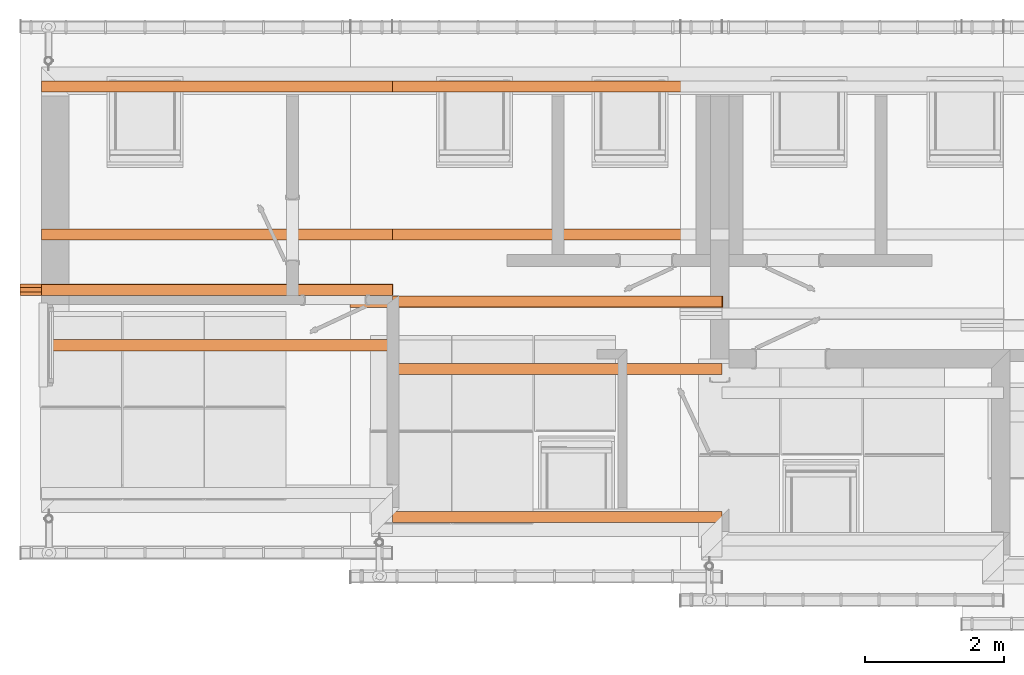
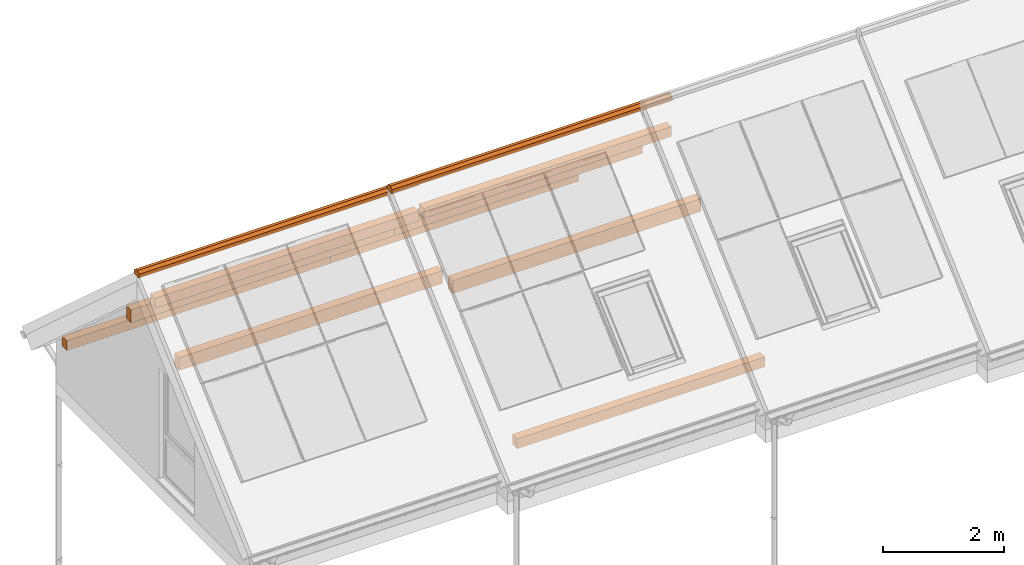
# One storey, part 18 of 43: 11 proxies.
"""IFC2X3 building model written with IfcOpenShell, lengths in millimetres."""

from ifc_helpers import new_model, si_unit, frame, origin_with_axes, place, context, project, spatial, faceted_brep, element, save


model = new_model("IFC2X3")

# Units and contexts
model_context = context("Model", 3, world=origin_with_axes())
ifc_project = project(units=[si_unit("LENGTHUNIT", "METRE", prefix="MILLI")], contexts=[model_context])

# Site, building, storey
site_placement = place(None, origin_with_axes())
site = spatial("IfcSite", under=ifc_project, at=site_placement, Name="Site", CompositionType="ELEMENT")
building_placement = place(site_placement, origin_with_axes())
building = spatial("IfcBuilding", under=site, at=building_placement, Name="?", CompositionType="ELEMENT")
storey_placement = place(building_placement, frame((0.0, 0.0, 5938.0), z_axis=(0.0, 0.0, 1.0), x_axis=(1.0, 0.0, 0.0)))
storey = spatial("IfcBuildingStorey", under=building, at=storey_placement, Name="Dachgeschoß", CompositionType="ELEMENT", Elevation=5938.0)

# Proxies
proxy_1_placement = place(None, origin_with_axes())
element("IfcBuildingElementProxy", 1, at=proxy_1_placement, inside=storey, Name="Dach03_RidgeStones#001", ObjectType="ridgestone", CompositionType="ELEMENT", context=model_context, shape_type="Brep", body=[
    faceted_brep([(9810.0, -3295.0, 10372.7373046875), (9810.0, -3295.0, 10297.7373046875), (4440.0, -3295.0, 10297.7373046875), (4440.0, -3295.0, 10372.7373046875), (9810.0, -3348.0, 10417.7373046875), (9810.0, -3294.99999760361, 10372.7373017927), (4440.0, -3294.99999760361, 10372.7373017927), (4440.0, -3348.0, 10417.7373046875), (9810.0, -3408.0, 10417.7373046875), (9810.0, -3348.0, 10417.7373046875), (4440.0, -3348.0, 10417.7373046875), (4440.0, -3408.0, 10417.7373046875), (9810.0, -3461.0, 10372.7373046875), (9810.0, -3407.99999760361, 10417.7373075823), (4440.0, -3407.99999760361, 10417.7373075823), (4440.0, -3461.0, 10372.7373046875), (9810.0, -3461.0, 10297.7373046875), (9810.0, -3461.0, 10372.7373046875), (4440.0, -3461.0, 10372.7373046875), (4440.0, -3461.0, 10297.7373046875), (9810.0, -3295.0, 10297.7373046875), (9810.0, -3461.0, 10297.7373046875), (4440.0, -3461.0, 10297.7373046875), (4440.0, -3295.0, 10297.7373046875), (9810.0, -3461.0, 10297.7373046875), (9810.0, -3295.0, 10297.7373046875), (9810.0, -3295.0, 10372.7373046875), (9810.0, -3348.0, 10417.7373046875), (9810.0, -3408.0, 10417.7373046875), (9810.0, -3461.0, 10372.7373046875), (4440.0, -3295.0, 10297.7373046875), (4440.0, -3461.0, 10297.7373046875), (4440.0, -3461.0, 10372.7373046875), (4440.0, -3408.0, 10417.7373046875), (4440.0, -3348.0, 10417.7373046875), (4440.0, -3295.0, 10372.7373046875)], [[[0, 1, 2, 3]], [[4, 5, 6, 7]], [[8, 9, 10, 11]], [[12, 13, 14, 15]], [[16, 17, 18, 19]], [[20, 21, 22, 23]], [[24, 25, 26, 27, 28, 29]], [[30, 31, 32, 33, 34, 35]]]),
])
proxy_2_placement = place(None, origin_with_axes())
element("IfcBuildingElementProxy", 2, at=proxy_2_placement, inside=storey, Name="Dach03_RidgePurlin#001", ObjectType="purlin", CompositionType="ELEMENT", context=model_context, shape_type="Brep", body=[
    faceted_brep([(9800.0, -3298.0, 9577.4521484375), (5050.0, -3298.0, 9577.4521484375), (5050.0, -3298.0, 9777.4521484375), (9800.0, -3298.0, 9777.4521484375), (9800.0, -3298.0, 9577.4521484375), (9800.0, -3298.0, 9777.4521484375), (9800.0, -3458.0, 9777.4521484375), (9800.0, -3458.0, 9577.4521484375), (5050.0, -3298.0, 9577.4521484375), (9800.0, -3298.0, 9577.4521484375), (9800.0, -3458.0, 9577.4521484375), (5050.0, -3458.0, 9577.4521484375), (5050.0, -3298.0, 9777.4521484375), (5050.0, -3298.0, 9577.4521484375), (5050.0, -3458.0, 9577.4521484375), (5050.0, -3458.0, 9777.4521484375), (9800.0, -3298.0, 9777.4521484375), (5050.0, -3298.0, 9777.4521484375), (5050.0, -3458.0, 9777.4521484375), (9800.0, -3458.0, 9777.4521484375), (9800.0, -3458.0, 9577.4521484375), (9800.0, -3458.0, 9777.4521484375), (5050.0, -3458.0, 9777.4521484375), (5050.0, -3458.0, 9577.4521484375)], [[[0, 1, 2, 3]], [[4, 5, 6, 7]], [[8, 9, 10, 11]], [[12, 13, 14, 15]], [[16, 17, 18, 19]], [[20, 21, 22, 23]]]),
])
proxy_3_placement = place(None, origin_with_axes())
element("IfcBuildingElementProxy", 3, at=proxy_3_placement, inside=storey, Name="Dach03_MiddlePurlin#001", ObjectType="purlin", CompositionType="ELEMENT", context=model_context, shape_type="Brep", body=[
    faceted_brep([(4450.0, -2489.03588867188, 8644.9921875), (9800.0, -2489.03588867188, 8644.9921875), (9800.0, -2489.03588867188, 8904.9921875), (4450.0, -2489.03588867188, 8904.9921875), (4450.0, -2489.03588867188, 8644.9921875), (4450.0, -2489.03588867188, 8904.9921875), (4450.0, -2329.03588867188, 8904.9921875), (4450.0, -2329.03588867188, 8644.9921875), (9800.0, -2489.03588867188, 8644.9921875), (4450.0, -2489.03588867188, 8644.9921875), (4450.0, -2329.03588867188, 8644.9921875), (9800.0, -2329.03588867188, 8644.9921875), (9800.0, -2489.03588867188, 8904.9921875), (9800.0, -2489.03588867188, 8644.9921875), (9800.0, -2329.03588867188, 8644.9921875), (9800.0, -2329.03588867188, 8904.9921875), (4450.0, -2489.03588867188, 8904.9921875), (9800.0, -2489.03588867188, 8904.9921875), (9800.0, -2329.03588867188, 8904.9921875), (4450.0, -2329.03588867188, 8904.9921875), (4450.0, -2329.03588867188, 8644.9921875), (4450.0, -2329.03588867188, 8904.9921875), (9800.0, -2329.03588867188, 8904.9921875), (9800.0, -2329.03588867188, 8644.9921875)], [[[0, 1, 2, 3]], [[4, 5, 6, 7]], [[8, 9, 10, 11]], [[12, 13, 14, 15]], [[16, 17, 18, 19]], [[20, 21, 22, 23]]]),
])
proxy_4_placement = place(None, origin_with_axes())
element("IfcBuildingElementProxy", 4, at=proxy_4_placement, inside=storey, Name="Dach03_MiddlePurlin#002", ObjectType="purlin", CompositionType="ELEMENT", context=model_context, shape_type="Brep", body=[
    faceted_brep([(9800.0, -4266.9638671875, 8644.9931640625), (5050.0, -4266.9638671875, 8644.9931640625), (5050.0, -4266.9638671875, 8904.9931640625), (9800.0, -4266.9638671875, 8904.9931640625), (9800.0, -4266.9638671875, 8644.9931640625), (9800.0, -4266.9638671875, 8904.9931640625), (9800.0, -4426.9638671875, 8904.9931640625), (9800.0, -4426.9638671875, 8644.9931640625), (5050.0, -4266.9638671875, 8644.9931640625), (9800.0, -4266.9638671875, 8644.9931640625), (9800.0, -4426.9638671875, 8644.9931640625), (5050.0, -4426.9638671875, 8644.9931640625), (5050.0, -4266.9638671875, 8904.9931640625), (5050.0, -4266.9638671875, 8644.9931640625), (5050.0, -4426.9638671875, 8644.9931640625), (5050.0, -4426.9638671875, 8904.9931640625), (9800.0, -4266.9638671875, 8904.9931640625), (5050.0, -4266.9638671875, 8904.9931640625), (5050.0, -4426.9638671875, 8904.9931640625), (9800.0, -4426.9638671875, 8904.9931640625), (9800.0, -4426.9638671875, 8644.9931640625), (9800.0, -4426.9638671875, 8904.9931640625), (5050.0, -4426.9638671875, 8904.9931640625), (5050.0, -4426.9638671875, 8644.9931640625)], [[[0, 1, 2, 3]], [[4, 5, 6, 7]], [[8, 9, 10, 11]], [[12, 13, 14, 15]], [[16, 17, 18, 19]], [[20, 21, 22, 23]]]),
])
proxy_5_placement = place(None, origin_with_axes())
element("IfcBuildingElementProxy", 5, at=proxy_5_placement, inside=storey, Name="Dach03_KneePurlin#001", ObjectType="purlin", CompositionType="ELEMENT", context=model_context, shape_type="Brep", body=[
    faceted_brep([(4450.0, -360.0, 6788.0), (9800.0, -360.0, 6788.0), (9800.0, -360.0, 6988.0), (4450.0, -360.0, 6988.0), (4450.0, -360.0, 6788.0), (4450.0, -360.0, 6988.0), (4450.0, -200.0, 6988.0), (4450.0, -200.0, 6788.0), (9800.0, -360.0, 6788.0), (4450.0, -360.0, 6788.0), (4450.0, -200.0, 6788.0), (9800.0, -200.0, 6788.0), (9800.0, -360.0, 6988.0), (9800.0, -360.0, 6788.0), (9800.0, -200.0, 6788.0), (9800.0, -200.0, 6988.0), (4450.0, -360.0, 6988.0), (9800.0, -360.0, 6988.0), (9800.0, -200.0, 6988.0), (4450.0, -200.0, 6988.0), (4450.0, -200.0, 6788.0), (4450.0, -200.0, 6988.0), (9800.0, -200.0, 6988.0), (9800.0, -200.0, 6788.0)], [[[0, 1, 2, 3]], [[4, 5, 6, 7]], [[8, 9, 10, 11]], [[12, 13, 14, 15]], [[16, 17, 18, 19]], [[20, 21, 22, 23]]]),
])
proxy_6_placement = place(None, origin_with_axes())
element("IfcBuildingElementProxy", 6, at=proxy_6_placement, inside=storey, Name="Dach03_KneePurlin#002", ObjectType="purlin", CompositionType="ELEMENT", context=model_context, shape_type="Brep", body=[
    faceted_brep([(9800.0, -6396.0, 6788.0), (5050.0, -6396.0, 6788.0), (5050.0, -6396.0, 6988.0), (9800.0, -6396.0, 6988.0), (9800.0, -6396.0, 6788.0), (9800.0, -6396.0, 6988.0), (9800.0, -6556.0, 6988.0), (9800.0, -6556.0, 6788.0), (5050.0, -6396.0, 6788.0), (9800.0, -6396.0, 6788.0), (9800.0, -6556.0, 6788.0), (5050.0, -6556.0, 6788.0), (5050.0, -6396.0, 6988.0), (5050.0, -6396.0, 6788.0), (5050.0, -6556.0, 6788.0), (5050.0, -6556.0, 6988.0), (9800.0, -6396.0, 6988.0), (5050.0, -6396.0, 6988.0), (5050.0, -6556.0, 6988.0), (9800.0, -6556.0, 6988.0), (9800.0, -6556.0, 6788.0), (9800.0, -6556.0, 6988.0), (5050.0, -6556.0, 6988.0), (5050.0, -6556.0, 6788.0)], [[[0, 1, 2, 3]], [[4, 5, 6, 7]], [[8, 9, 10, 11]], [[12, 13, 14, 15]], [[16, 17, 18, 19]], [[20, 21, 22, 23]]]),
])
proxy_7_placement = place(None, origin_with_axes())
element("IfcBuildingElementProxy", 7, at=proxy_7_placement, inside=storey, Name="Dach04_RidgeStones#001", ObjectType="ridgestone", CompositionType="ELEMENT", context=model_context, shape_type="Brep", body=[
    faceted_brep([(-310.0, -3290.5, 10219.21875), (-310.0, -3290.5, 10144.21875), (5060.0, -3290.5, 10144.21875), (5060.0, -3290.5, 10219.21875), (-310.0, -3237.5, 10264.21875), (-310.0, -3290.50000239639, 10219.2187471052), (5060.0, -3290.50000239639, 10219.2187471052), (5060.0, -3237.5, 10264.21875), (-310.0, -3177.5, 10264.21875), (-310.0, -3237.5, 10264.21875), (5060.0, -3237.5, 10264.21875), (5060.0, -3177.5, 10264.21875), (-310.0, -3124.5, 10219.21875), (-310.0, -3177.50000239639, 10264.2187528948), (5060.0, -3177.50000239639, 10264.2187528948), (5060.0, -3124.5, 10219.21875), (-310.0, -3124.5, 10144.21875), (-310.0, -3124.5, 10219.21875), (5060.0, -3124.5, 10219.21875), (5060.0, -3124.5, 10144.21875), (-310.0, -3290.5, 10144.21875), (-310.0, -3124.5, 10144.21875), (5060.0, -3124.5, 10144.21875), (5060.0, -3290.5, 10144.21875), (-310.0, -3124.5, 10144.21875), (-310.0, -3290.5, 10144.21875), (-310.0, -3290.5, 10219.21875), (-310.0, -3237.5, 10264.21875), (-310.0, -3177.5, 10264.21875), (-310.0, -3124.5, 10219.21875), (5060.0, -3290.5, 10144.21875), (5060.0, -3124.5, 10144.21875), (5060.0, -3124.5, 10219.21875), (5060.0, -3177.5, 10264.21875), (5060.0, -3237.5, 10264.21875), (5060.0, -3290.5, 10219.21875)], [[[0, 1, 2, 3]], [[4, 5, 6, 7]], [[8, 9, 10, 11]], [[12, 13, 14, 15]], [[16, 17, 18, 19]], [[20, 21, 22, 23]], [[24, 25, 26, 27, 28, 29]], [[30, 31, 32, 33, 34, 35]]]),
])
proxy_8_placement = place(None, origin_with_axes())
element("IfcBuildingElementProxy", 8, at=proxy_8_placement, inside=storey, Name="Dach04_RidgePurlin#001", ObjectType="purlin", CompositionType="ELEMENT", context=model_context, shape_type="Brep", body=[
    faceted_brep([(0.0, -3287.5, 9423.9326171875), (5050.0, -3287.5, 9423.9326171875), (5050.0, -3287.5, 9623.9326171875), (0.0, -3287.5, 9623.9326171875), (0.0, -3287.5, 9423.9326171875), (0.0, -3287.5, 9623.9326171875), (0.0, -3127.5, 9623.9326171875), (0.0, -3127.5, 9423.9326171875), (5050.0, -3287.5, 9423.9326171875), (0.0, -3287.5, 9423.9326171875), (0.0, -3127.5, 9423.9326171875), (5050.0, -3127.5, 9423.9326171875), (5050.0, -3287.5, 9623.9326171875), (5050.0, -3287.5, 9423.9326171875), (5050.0, -3127.5, 9423.9326171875), (5050.0, -3127.5, 9623.9326171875), (0.0, -3287.5, 9623.9326171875), (5050.0, -3287.5, 9623.9326171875), (5050.0, -3127.5, 9623.9326171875), (0.0, -3127.5, 9623.9326171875), (0.0, -3127.5, 9423.9326171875), (0.0, -3127.5, 9623.9326171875), (5050.0, -3127.5, 9623.9326171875), (5050.0, -3127.5, 9423.9326171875)], [[[0, 1, 2, 3]], [[4, 5, 6, 7]], [[8, 9, 10, 11]], [[12, 13, 14, 15]], [[16, 17, 18, 19]], [[20, 21, 22, 23]]]),
])
proxy_9_placement = place(None, origin_with_axes())
element("IfcBuildingElementProxy", 9, at=proxy_9_placement, inside=storey, Name="Dach04_MiddlePurlin#001", ObjectType="purlin", CompositionType="ELEMENT", context=model_context, shape_type="Brep", body=[
    faceted_brep([(5050.0, -3925.96435546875, 8644.9921875), (0.0, -3925.96435546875, 8644.9921875), (0.0, -3925.96435546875, 8904.9921875), (5050.0, -3925.96435546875, 8904.9921875), (5050.0, -3925.96435546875, 8644.9921875), (5050.0, -3925.96435546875, 8904.9921875), (5050.0, -4085.96435546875, 8904.9921875), (5050.0, -4085.96435546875, 8644.9921875), (0.0, -3925.96435546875, 8644.9921875), (5050.0, -3925.96435546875, 8644.9921875), (5050.0, -4085.96435546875, 8644.9921875), (0.0, -4085.96435546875, 8644.9921875), (0.0, -3925.96435546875, 8904.9921875), (0.0, -3925.96435546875, 8644.9921875), (0.0, -4085.96435546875, 8644.9921875), (0.0, -4085.96435546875, 8904.9921875), (5050.0, -3925.96435546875, 8904.9921875), (0.0, -3925.96435546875, 8904.9921875), (0.0, -4085.96435546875, 8904.9921875), (5050.0, -4085.96435546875, 8904.9921875), (5050.0, -4085.96435546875, 8644.9921875), (5050.0, -4085.96435546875, 8904.9921875), (0.0, -4085.96435546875, 8904.9921875), (0.0, -4085.96435546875, 8644.9921875)], [[[0, 1, 2, 3]], [[4, 5, 6, 7]], [[8, 9, 10, 11]], [[12, 13, 14, 15]], [[16, 17, 18, 19]], [[20, 21, 22, 23]]]),
])
proxy_10_placement = place(None, origin_with_axes())
element("IfcBuildingElementProxy", 10, at=proxy_10_placement, inside=storey, Name="Dach04_MiddlePurlin#002", ObjectType="purlin", CompositionType="ELEMENT", context=model_context, shape_type="Brep", body=[
    faceted_brep([(0.0, -2489.03588867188, 8644.9921875), (5050.0, -2489.03588867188, 8644.9921875), (5050.0, -2489.03588867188, 8904.9921875), (0.0, -2489.03588867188, 8904.9921875), (0.0, -2489.03588867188, 8644.9921875), (0.0, -2489.03588867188, 8904.9921875), (0.0, -2329.03588867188, 8904.9921875), (0.0, -2329.03588867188, 8644.9921875), (5050.0, -2489.03588867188, 8644.9921875), (0.0, -2489.03588867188, 8644.9921875), (0.0, -2329.03588867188, 8644.9921875), (5050.0, -2329.03588867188, 8644.9921875), (5050.0, -2489.03588867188, 8904.9921875), (5050.0, -2489.03588867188, 8644.9921875), (5050.0, -2329.03588867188, 8644.9921875), (5050.0, -2329.03588867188, 8904.9921875), (0.0, -2489.03588867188, 8904.9921875), (5050.0, -2489.03588867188, 8904.9921875), (5050.0, -2329.03588867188, 8904.9921875), (0.0, -2329.03588867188, 8904.9921875), (0.0, -2329.03588867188, 8644.9921875), (0.0, -2329.03588867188, 8904.9921875), (5050.0, -2329.03588867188, 8904.9921875), (5050.0, -2329.03588867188, 8644.9921875)], [[[0, 1, 2, 3]], [[4, 5, 6, 7]], [[8, 9, 10, 11]], [[12, 13, 14, 15]], [[16, 17, 18, 19]], [[20, 21, 22, 23]]]),
])
proxy_11_placement = place(None, origin_with_axes())
element("IfcBuildingElementProxy", 11, at=proxy_11_placement, inside=storey, Name="Dach04_KneePurlin#002", ObjectType="purlin", CompositionType="ELEMENT", context=model_context, shape_type="Brep", body=[
    faceted_brep([(0.0, -360.0, 6788.0), (5050.0, -360.0, 6788.0), (5050.0, -360.0, 6988.0), (0.0, -360.0, 6988.0), (0.0, -360.0, 6788.0), (0.0, -360.0, 6988.0), (0.0, -200.0, 6988.0), (0.0, -200.0, 6788.0), (5050.0, -360.0, 6788.0), (0.0, -360.0, 6788.0), (0.0, -200.0, 6788.0), (5050.0, -200.0, 6788.0), (5050.0, -360.0, 6988.0), (5050.0, -360.0, 6788.0), (5050.0, -200.0, 6788.0), (5050.0, -200.0, 6988.0), (0.0, -360.0, 6988.0), (5050.0, -360.0, 6988.0), (5050.0, -200.0, 6988.0), (0.0, -200.0, 6988.0), (0.0, -200.0, 6788.0), (0.0, -200.0, 6988.0), (5050.0, -200.0, 6988.0), (5050.0, -200.0, 6788.0)], [[[0, 1, 2, 3]], [[4, 5, 6, 7]], [[8, 9, 10, 11]], [[12, 13, 14, 15]], [[16, 17, 18, 19]], [[20, 21, 22, 23]]]),
])

save(model, "model.ifc")
